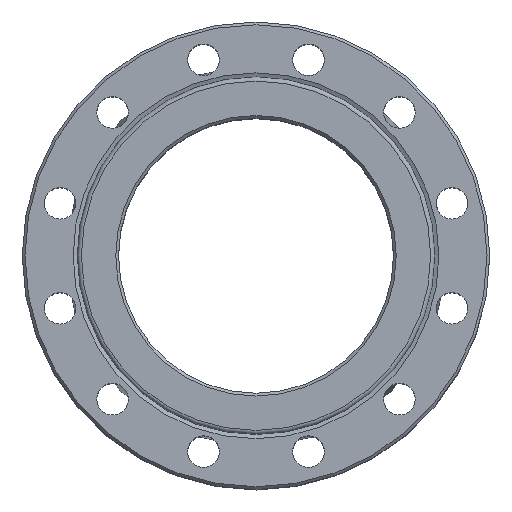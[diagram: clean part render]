
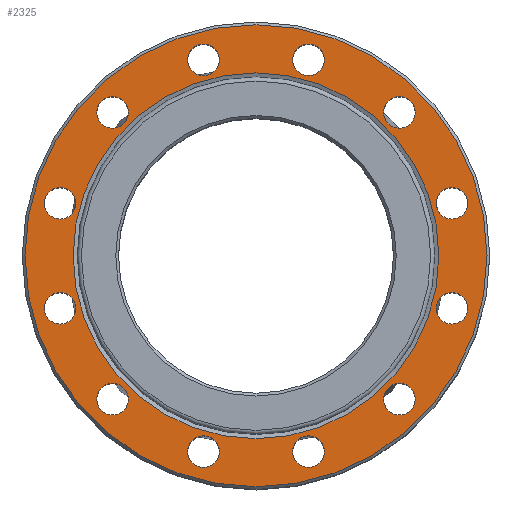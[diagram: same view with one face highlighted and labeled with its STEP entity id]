
A CAD part, top view. The second image highlights one B-rep face of the part: STEP entity #2325.
In plain terms, the highlighted planar face has unit normal (0, 0, 1).
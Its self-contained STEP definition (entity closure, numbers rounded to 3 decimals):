
#101=PLANE('',#2582);
#169=FACE_BOUND('',#648,.T.);
#170=FACE_BOUND('',#649,.T.);
#171=FACE_BOUND('',#650,.T.);
#172=FACE_BOUND('',#651,.T.);
#173=FACE_BOUND('',#652,.T.);
#174=FACE_BOUND('',#653,.T.);
#175=FACE_BOUND('',#654,.T.);
#176=FACE_BOUND('',#655,.T.);
#177=FACE_BOUND('',#656,.T.);
#178=FACE_BOUND('',#657,.T.);
#179=FACE_BOUND('',#658,.T.);
#180=FACE_BOUND('',#659,.T.);
#181=FACE_BOUND('',#660,.T.);
#488=FACE_OUTER_BOUND('',#647,.T.);
#647=EDGE_LOOP('',(#2151));
#648=EDGE_LOOP('',(#2152));
#649=EDGE_LOOP('',(#2153));
#650=EDGE_LOOP('',(#2154));
#651=EDGE_LOOP('',(#2155));
#652=EDGE_LOOP('',(#2156));
#653=EDGE_LOOP('',(#2157));
#654=EDGE_LOOP('',(#2158));
#655=EDGE_LOOP('',(#2159));
#656=EDGE_LOOP('',(#2160));
#657=EDGE_LOOP('',(#2161));
#658=EDGE_LOOP('',(#2162));
#659=EDGE_LOOP('',(#2163));
#660=EDGE_LOOP('',(#2164));
#881=CIRCLE('',#2390,11.5);
#883=CIRCLE('',#2393,11.5);
#885=CIRCLE('',#2396,11.5);
#887=CIRCLE('',#2399,11.5);
#889=CIRCLE('',#2402,11.5);
#891=CIRCLE('',#2405,11.5);
#893=CIRCLE('',#2408,11.5);
#895=CIRCLE('',#2411,11.5);
#897=CIRCLE('',#2414,11.5);
#899=CIRCLE('',#2417,11.5);
#901=CIRCLE('',#2420,11.5);
#903=CIRCLE('',#2423,11.5);
#1008=CIRCLE('',#2581,168.);
#1009=CIRCLE('',#2583,133.);
#1052=VERTEX_POINT('',#3320);
#1054=VERTEX_POINT('',#3326);
#1056=VERTEX_POINT('',#3332);
#1058=VERTEX_POINT('',#3338);
#1060=VERTEX_POINT('',#3344);
#1062=VERTEX_POINT('',#3350);
#1064=VERTEX_POINT('',#3356);
#1066=VERTEX_POINT('',#3362);
#1068=VERTEX_POINT('',#3368);
#1070=VERTEX_POINT('',#3374);
#1072=VERTEX_POINT('',#3380);
#1074=VERTEX_POINT('',#3386);
#1233=VERTEX_POINT('',#4866);
#1234=VERTEX_POINT('',#4870);
#1274=EDGE_CURVE('',#1052,#1052,#881,.T.);
#1277=EDGE_CURVE('',#1054,#1054,#883,.T.);
#1280=EDGE_CURVE('',#1056,#1056,#885,.T.);
#1283=EDGE_CURVE('',#1058,#1058,#887,.T.);
#1286=EDGE_CURVE('',#1060,#1060,#889,.T.);
#1289=EDGE_CURVE('',#1062,#1062,#891,.T.);
#1292=EDGE_CURVE('',#1064,#1064,#893,.T.);
#1295=EDGE_CURVE('',#1066,#1066,#895,.T.);
#1298=EDGE_CURVE('',#1068,#1068,#897,.T.);
#1301=EDGE_CURVE('',#1070,#1070,#899,.T.);
#1304=EDGE_CURVE('',#1072,#1072,#901,.T.);
#1307=EDGE_CURVE('',#1074,#1074,#903,.T.);
#1546=EDGE_CURVE('',#1233,#1233,#1008,.T.);
#1547=EDGE_CURVE('',#1234,#1234,#1009,.T.);
#2151=ORIENTED_EDGE('',*,*,#1546,.F.);
#2152=ORIENTED_EDGE('',*,*,#1274,.T.);
#2153=ORIENTED_EDGE('',*,*,#1277,.T.);
#2154=ORIENTED_EDGE('',*,*,#1280,.T.);
#2155=ORIENTED_EDGE('',*,*,#1283,.T.);
#2156=ORIENTED_EDGE('',*,*,#1286,.T.);
#2157=ORIENTED_EDGE('',*,*,#1289,.T.);
#2158=ORIENTED_EDGE('',*,*,#1292,.T.);
#2159=ORIENTED_EDGE('',*,*,#1295,.T.);
#2160=ORIENTED_EDGE('',*,*,#1298,.T.);
#2161=ORIENTED_EDGE('',*,*,#1301,.T.);
#2162=ORIENTED_EDGE('',*,*,#1304,.T.);
#2163=ORIENTED_EDGE('',*,*,#1307,.T.);
#2164=ORIENTED_EDGE('',*,*,#1547,.T.);
#2325=ADVANCED_FACE('',(#488,#169,#170,#171,#172,#173,#174,#175,#176,#177,
#178,#179,#180,#181),#101,.F.);
#2390=AXIS2_PLACEMENT_3D('',#3321,#2706,#2707);
#2393=AXIS2_PLACEMENT_3D('',#3327,#2713,#2714);
#2396=AXIS2_PLACEMENT_3D('',#3333,#2720,#2721);
#2399=AXIS2_PLACEMENT_3D('',#3339,#2727,#2728);
#2402=AXIS2_PLACEMENT_3D('',#3345,#2734,#2735);
#2405=AXIS2_PLACEMENT_3D('',#3351,#2741,#2742);
#2408=AXIS2_PLACEMENT_3D('',#3357,#2748,#2749);
#2411=AXIS2_PLACEMENT_3D('',#3363,#2755,#2756);
#2414=AXIS2_PLACEMENT_3D('',#3369,#2762,#2763);
#2417=AXIS2_PLACEMENT_3D('',#3375,#2769,#2770);
#2420=AXIS2_PLACEMENT_3D('',#3381,#2776,#2777);
#2423=AXIS2_PLACEMENT_3D('',#3387,#2783,#2784);
#2581=AXIS2_PLACEMENT_3D('',#4868,#3170,#3171);
#2582=AXIS2_PLACEMENT_3D('',#4869,#3172,#3173);
#2583=AXIS2_PLACEMENT_3D('',#4871,#3174,#3175);
#2706=DIRECTION('center_axis',(0.,0.,-1.));
#2707=DIRECTION('ref_axis',(1.,0.,0.));
#2713=DIRECTION('center_axis',(0.,0.,-1.));
#2714=DIRECTION('ref_axis',(1.,0.,0.));
#2720=DIRECTION('center_axis',(0.,0.,-1.));
#2721=DIRECTION('ref_axis',(1.,0.,0.));
#2727=DIRECTION('center_axis',(0.,0.,-1.));
#2728=DIRECTION('ref_axis',(1.,0.,0.));
#2734=DIRECTION('center_axis',(0.,0.,-1.));
#2735=DIRECTION('ref_axis',(1.,0.,0.));
#2741=DIRECTION('center_axis',(0.,0.,-1.));
#2742=DIRECTION('ref_axis',(1.,0.,0.));
#2748=DIRECTION('center_axis',(0.,0.,-1.));
#2749=DIRECTION('ref_axis',(1.,0.,0.));
#2755=DIRECTION('center_axis',(0.,0.,-1.));
#2756=DIRECTION('ref_axis',(1.,0.,0.));
#2762=DIRECTION('center_axis',(0.,0.,-1.));
#2763=DIRECTION('ref_axis',(1.,0.,0.));
#2769=DIRECTION('center_axis',(0.,0.,-1.));
#2770=DIRECTION('ref_axis',(1.,0.,0.));
#2776=DIRECTION('center_axis',(0.,0.,-1.));
#2777=DIRECTION('ref_axis',(1.,0.,0.));
#2783=DIRECTION('center_axis',(0.,0.,-1.));
#2784=DIRECTION('ref_axis',(1.,0.,0.));
#3170=DIRECTION('center_axis',(0.,0.,-1.));
#3171=DIRECTION('ref_axis',(1.,0.,0.));
#3172=DIRECTION('center_axis',(0.,0.,-1.));
#3173=DIRECTION('ref_axis',(-1.,0.,0.));
#3174=DIRECTION('center_axis',(0.,0.,-1.));
#3175=DIRECTION('ref_axis',(0.,1.,0.));
#3320=CARTESIAN_POINT('',(-153.974,-38.176,101.));
#3321=CARTESIAN_POINT('Origin',(-142.474,-38.176,101.));
#3326=CARTESIAN_POINT('',(-49.676,-142.474,101.));
#3327=CARTESIAN_POINT('Origin',(-38.176,-142.474,101.));
#3332=CARTESIAN_POINT('',(92.798,-104.298,101.));
#3333=CARTESIAN_POINT('Origin',(104.298,-104.298,101.));
#3338=CARTESIAN_POINT('',(92.798,104.298,101.));
#3339=CARTESIAN_POINT('Origin',(104.298,104.298,101.));
#3344=CARTESIAN_POINT('',(-49.676,142.474,101.));
#3345=CARTESIAN_POINT('Origin',(-38.176,142.474,101.));
#3350=CARTESIAN_POINT('',(-153.974,38.176,101.));
#3351=CARTESIAN_POINT('Origin',(-142.474,38.176,101.));
#3356=CARTESIAN_POINT('',(-115.798,104.298,101.));
#3357=CARTESIAN_POINT('Origin',(-104.298,104.298,101.));
#3362=CARTESIAN_POINT('',(26.676,142.474,101.));
#3363=CARTESIAN_POINT('Origin',(38.176,142.474,101.));
#3368=CARTESIAN_POINT('',(130.974,38.176,101.));
#3369=CARTESIAN_POINT('Origin',(142.474,38.176,101.));
#3374=CARTESIAN_POINT('',(26.676,-142.474,101.));
#3375=CARTESIAN_POINT('Origin',(38.176,-142.474,101.));
#3380=CARTESIAN_POINT('',(-115.798,-104.298,101.));
#3381=CARTESIAN_POINT('Origin',(-104.298,-104.298,101.));
#3386=CARTESIAN_POINT('',(130.974,-38.176,101.));
#3387=CARTESIAN_POINT('Origin',(142.474,-38.176,101.));
#4866=CARTESIAN_POINT('',(-168.,0.,101.));
#4868=CARTESIAN_POINT('Origin',(0.,0.,101.));
#4869=CARTESIAN_POINT('Origin',(0.,0.,101.));
#4870=CARTESIAN_POINT('',(0.,-133.,101.));
#4871=CARTESIAN_POINT('Origin',(0.,0.,101.));
